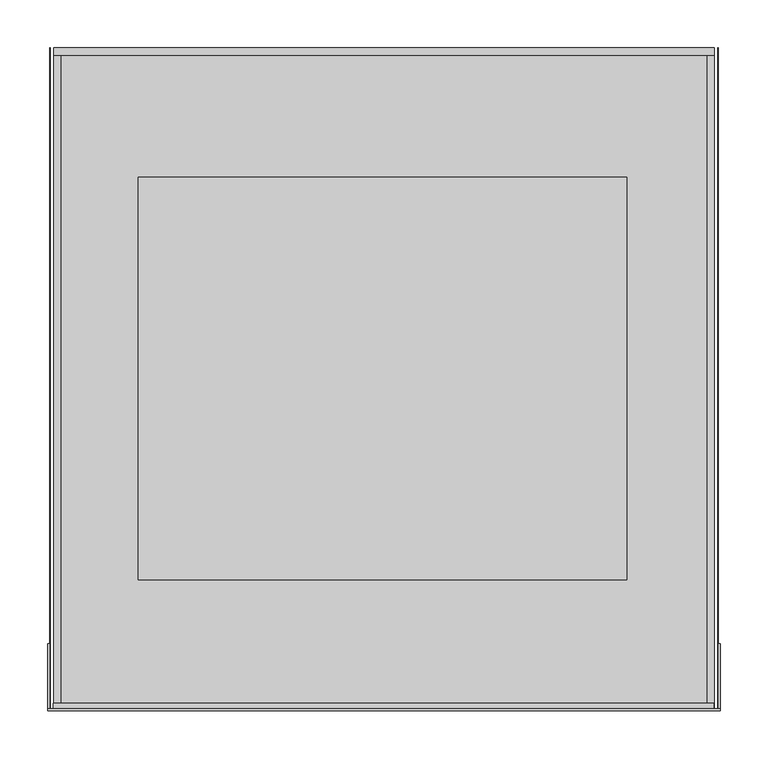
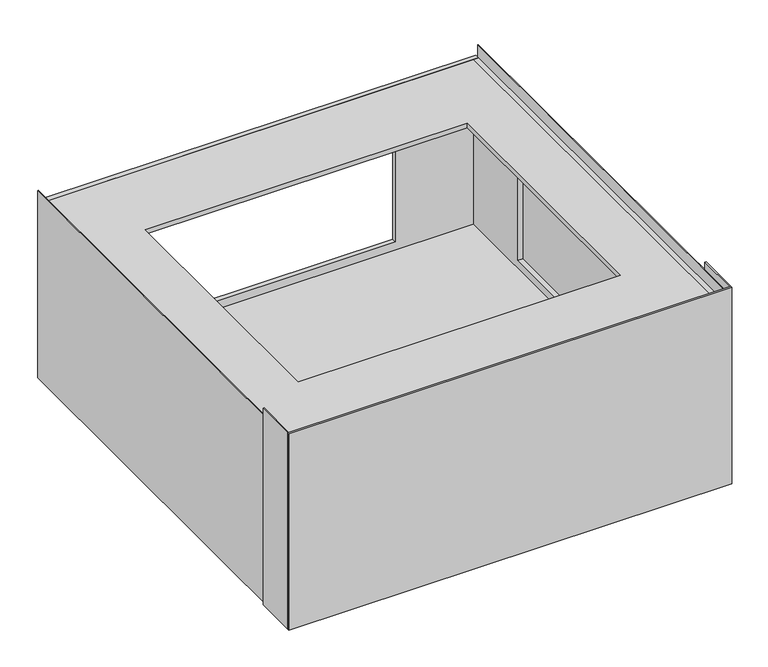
"""IFC4 building model written with IfcOpenShell, lengths in millimetres: proxy geometry, 11792190_EU_APCL057_SST : 59590057_EU_11792190_APCL057_SST."""

from ifc_helpers import new_model, si_unit, point, frame, frame_2d, origin, origin_with_axes, place, context, project, spatial, polyline, circle_curve, trimmed, segment, composite_curve, outline, extrude, source, transform, mapped, element, save


def specialty_equipment_7cd9c3d5(model_context):
    return source(origin(), model_context, "Body", "SweptSolid", [
        extrude(outline(composite_curve([segment(trimmed(circle_curve(frame_2d((-315.4232216, -660.6707196)), 10.0), [point((-325.4232216, -660.6707196))], [point((-305.4232216, -660.6707196))], False, "CARTESIAN"), True, "CONTINUOUS"), segment(trimmed(circle_curve(frame_2d((-315.4232216, -660.6707196)), 10.0), [point((-305.4232216, -660.6707196))], [point((-325.4232216, -660.6707196))], False, "CARTESIAN"), True, "CONTINUOUS")], self_intersect=False)), frame((0.0, 0.0, 7.9012554), z_axis=(0.0, 0.0, 1.0), x_axis=(1.0, 0.0, 0.0)), (0.0, 0.0, 1.0), 9.9486858),
        extrude(outline(composite_curve([segment(trimmed(circle_curve(frame_2d((-315.414248, -660.6707196)), 20.0), [point((-335.414248, -660.6707196))], [point((-295.414248, -660.6707196))], False, "CARTESIAN"), True, "CONTINUOUS"), segment(trimmed(circle_curve(frame_2d((-315.414248, -660.6707196)), 20.0), [point((-295.414248, -660.6707196))], [point((-335.414248, -660.6707196))], False, "CARTESIAN"), True, "CONTINUOUS")], self_intersect=False)), origin_with_axes(), (0.0, 0.0, 1.0), 7.9012554),
        extrude(outline(composite_curve([segment(trimmed(circle_curve(frame_2d((-315.65, -29.0)), 10.0), [point((-325.65, -29.0))], [point((-305.65, -29.0))], False, "CARTESIAN"), True, "CONTINUOUS"), segment(trimmed(circle_curve(frame_2d((-315.65, -29.0)), 10.0), [point((-305.65, -29.0))], [point((-325.65, -29.0))], False, "CARTESIAN"), True, "CONTINUOUS")], self_intersect=False)), frame((0.0, 0.0, 7.9012554), z_axis=(0.0, 0.0, 1.0), x_axis=(1.0, 0.0, 0.0)), (0.0, 0.0, 1.0), 9.9486858),
        extrude(outline(composite_curve([segment(trimmed(circle_curve(frame_2d((315.65, -28.756609)), 10.0), [point((325.65, -28.756609))], [point((305.65, -28.756609))], False, "CARTESIAN"), True, "CONTINUOUS"), segment(trimmed(circle_curve(frame_2d((315.65, -28.756609)), 10.0), [point((305.65, -28.756609))], [point((325.65, -28.756609))], False, "CARTESIAN"), True, "CONTINUOUS")], self_intersect=False)), frame((0.0, 0.0, 7.9012554), z_axis=(0.0, 0.0, 1.0), x_axis=(1.0, 0.0, 0.0)), (0.0, 0.0, 1.0), 9.9486858),
        extrude(outline(composite_curve([segment(trimmed(circle_curve(frame_2d((315.4232216, -660.6707196)), 10.0), [point((325.4232216, -660.6707196))], [point((305.4232216, -660.6707196))], False, "CARTESIAN"), True, "CONTINUOUS"), segment(trimmed(circle_curve(frame_2d((315.4232216, -660.6707196)), 10.0), [point((305.4232216, -660.6707196))], [point((325.4232216, -660.6707196))], False, "CARTESIAN"), True, "CONTINUOUS")], self_intersect=False)), frame((0.0, 0.0, 7.9012554), z_axis=(0.0, 0.0, 1.0), x_axis=(1.0, 0.0, 0.0)), (0.0, 0.0, 1.0), 9.9486858),
        extrude(outline(composite_curve([segment(trimmed(circle_curve(frame_2d((315.414248, -660.6707196)), 20.0), [point((335.414248, -660.6707196))], [point((295.414248, -660.6707196))], False, "CARTESIAN"), True, "CONTINUOUS"), segment(trimmed(circle_curve(frame_2d((315.414248, -660.6707196)), 20.0), [point((295.414248, -660.6707196))], [point((335.414248, -660.6707196))], False, "CARTESIAN"), True, "CONTINUOUS")], self_intersect=False)), origin_with_axes(), (0.0, 0.0, 1.0), 7.9012554),
        extrude(outline(composite_curve([segment(trimmed(circle_curve(frame_2d((315.65, -29.0243084)), 20.0), [point((335.65, -29.0243084))], [point((295.65, -29.0243084))], False, "CARTESIAN"), True, "CONTINUOUS"), segment(trimmed(circle_curve(frame_2d((315.65, -29.0243084)), 20.0), [point((295.65, -29.0243084))], [point((335.65, -29.0243084))], False, "CARTESIAN"), True, "CONTINUOUS")], self_intersect=False)), origin_with_axes(), (0.0, 0.0, 1.0), 7.9012554),
        extrude(outline(composite_curve([segment(trimmed(circle_curve(frame_2d((-315.65, -28.756609)), 20.0), [point((-335.65, -28.756609))], [point((-295.65, -28.756609))], False, "CARTESIAN"), True, "CONTINUOUS"), segment(trimmed(circle_curve(frame_2d((-315.65, -28.756609)), 20.0), [point((-295.65, -28.756609))], [point((-335.65, -28.756609))], False, "CARTESIAN"), True, "CONTINUOUS")], self_intersect=False)), origin_with_axes(), (0.0, 0.0, 1.0), 7.9012554),
        extrude(outline(polyline([(336.65, -8.0), (336.65, -683.7), (-336.65, -683.7), (-336.65, -8.0), (336.65, -8.0)])), frame((0.0, 0.0, 17.8499412), z_axis=(0.0, 0.0, 1.0), x_axis=(1.0, 0.0, 0.0)), (0.0, 0.0, 1.0), 6.3707886),
        extrude(outline(polyline([(300.0000515, -345.0), (17.8499412, -345.0), (17.8499412, 343.9970109), (300.0000515, 343.9970109), (300.0000515, -345.0)]), holes=[polyline([(255.0000529, -217.8283968), (255.0000529, 212.9108386), (37.8499412, 212.9108386), (37.8499412, -217.8283968), (255.0000529, -217.8283968)])]), frame((0.0, -689.7, 0.0), z_axis=(0.0, 1.0, 0.0), x_axis=(0.0, 0.0, 1.0)), (0.0, 0.0, 1.0), 6.0),
        extrude(outline(polyline([(300.0000515, -344.6928831), (17.8499412, -344.6928831), (17.8499412, 344.6928831), (300.0000515, 344.6928831), (300.0000515, -344.6928831)]), holes=[polyline([(255.0000529, -217.5212799), (255.0000529, 213.2179554), (37.8499412, 213.2179554), (37.8499412, -217.5212799), (255.0000529, -217.5212799)])]), frame((0.0, -7.7517808, 0.0), z_axis=(0.0, 1.0, 0.0), x_axis=(0.0, 0.0, 1.0)), (0.0, 0.0, 1.0), 7.7517808),
        extrude(outline(polyline([(336.65, -8.0), (336.65, -683.7), (-336.65, -683.7), (-336.65, -8.0), (336.65, -8.0)]), holes=[polyline([(-256.650057, -555.0), (253.349943, -555.0), (253.349943, -135.0), (-256.650057, -135.0), (-256.650057, -555.0)])]), frame((0.0, 0.0, 292.0934441), z_axis=(0.0, 0.0, 1.0), x_axis=(1.0, 0.0, 0.0)), (0.0, 0.0, 1.0), 7.9066074),
        extrude(outline(polyline([(-689.7, 300.0000515), (-7.7517808, 300.0000515), (-7.7517808, 17.8499412), (-689.7, 17.8499412), (-689.7, 300.0000515)]), holes=[polyline([(-561.7, 255.0000529), (-561.7, 37.8499412), (-130.0, 37.8499412), (-130.0, 255.0000529), (-561.7, 255.0000529)])]), frame((336.65, 0.0, 0.0), z_axis=(1.0, 0.0, 0.0), x_axis=(0.0, 1.0, 0.0)), (0.0, 0.0, 1.0), 8.0428831),
        extrude(outline(polyline([(-689.7, 300.0000515), (-7.7517808, 300.0000515), (-7.7517808, 17.8499412), (-689.7, 17.8499412), (-689.7, 300.0000515)]), holes=[polyline([(-561.7, 255.0), (-561.7, 38.0), (-130.0, 38.0), (-130.0, 255.0), (-561.7, 255.0)])]), frame((-344.6928831, 0.0, 0.0), z_axis=(1.0, 0.0, 0.0), x_axis=(0.0, 1.0, 0.0)), (0.0, 0.0, 1.0), 8.0428831),
        extrude(outline(polyline([(350.65, -689.7), (350.65, -691.7), (-350.65, -691.7), (-350.65, -689.7), (350.65, -689.7)])), origin_with_axes(), (0.0, 0.0, 1.0), 329.0),
        extrude(outline(polyline([(348.9787048, -689.7), (348.9787048, -621.7872741), (350.65, -621.7872741), (350.65, -689.7), (348.9787048, -689.7)])), origin_with_axes(), (0.0, 0.0, 1.0), 329.0),
        extrude(outline(polyline([(-348.9787048, -621.7872741), (-348.9787048, -689.7), (-350.65, -689.7), (-350.65, -621.7872741), (-348.9787048, -621.7872741)])), origin_with_axes(), (0.0, 0.0, 1.0), 329.0),
        extrude(outline(polyline([(348.9787048, -689.7), (347.9787048, -689.7), (347.9787048, 0.0), (348.9787048, 0.0), (348.9787048, -689.7)])), frame((0.0, 0.0, 3.0000568), z_axis=(0.0, 0.0, 1.0), x_axis=(1.0, 0.0, 0.0)), (0.0, 0.0, 1.0), 312.9999432),
        extrude(outline(polyline([(0.0, -1.0), (0.0, 0.0), (689.7, 0.0), (689.7, -1.0), (0.0, -1.0)])), frame((-348.9787048, -689.7, 3.0000568), z_axis=(-2.2841728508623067e-12, 0.0, 1.0), x_axis=(0.0, 1.0, 0.0)), (0.0, 0.0, 1.0), 312.9999432),
    ])


if __name__ == "__main__":
    model = new_model("IFC4")
    model_context = context("Model", 3, world=origin())
    ifc_project = project(units=[si_unit("LENGTHUNIT", "METRE", prefix="MILLI")], contexts=[model_context])
    site = spatial("IfcSite", under=ifc_project)
    building = spatial("IfcBuilding", under=site)
    placement = place(None, origin())
    specialty_equipment_shape = specialty_equipment_7cd9c3d5(model_context)
    element("IfcBuildingElementProxy", 1, Name="11792190_EU_APCL057_SST : 59590057_EU_11792190_APCL057_SST", ObjectType="11792190_EU_APCL057_SST : 59590057_EU_11792190_APCL057_SST", at=placement, inside=building, context=model_context, shape_type="MappedRepresentation", body=[
        mapped(specialty_equipment_shape, transform((0.0, 0.0, 0.0), x_axis=(1.0, 0.0, 0.0), y_axis=(0.0, 1.0, 0.0), z_axis=(0.0, 0.0, 1.0))),
    ])
    save(model, "model.ifc")
